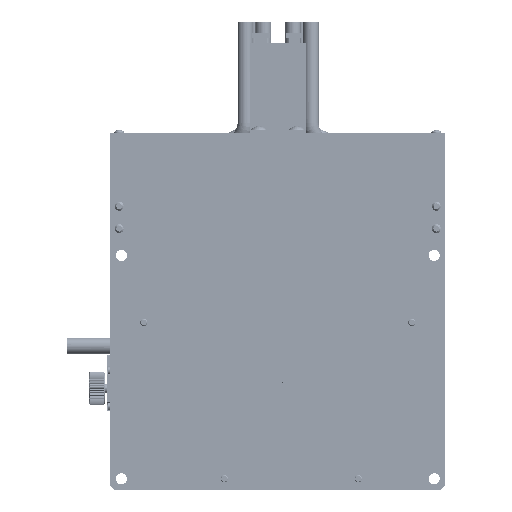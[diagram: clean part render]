
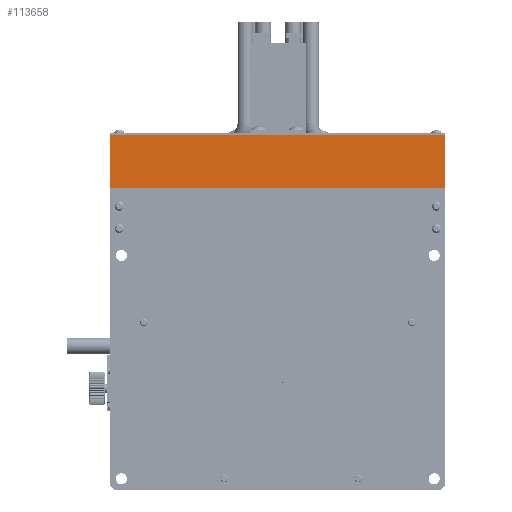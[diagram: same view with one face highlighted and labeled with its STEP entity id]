
A CAD part, front view. The second image highlights one B-rep face of the part: STEP entity #113658.
In plain terms, the highlighted planar face has unit normal (0, -1, 0) as drawn and (0, 0, -1) by its records, which use the part's own axes.
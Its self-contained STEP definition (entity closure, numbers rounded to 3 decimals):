
#1007 = ORIENTED_EDGE ( 'NONE', *, *, #238536, .T. ) ;
#2831 = ORIENTED_EDGE ( 'NONE', *, *, #101937, .F. ) ;
#22984 = ORIENTED_EDGE ( 'NONE', *, *, #203939, .F. ) ;
#30285 = DIRECTION ( 'NONE',  ( 1., 0., 0. ) ) ;
#36614 = PLANE ( 'NONE',  #79443 ) ;
#38085 = VERTEX_POINT ( 'NONE', #272575 ) ;
#46444 = CARTESIAN_POINT ( 'NONE',  ( 0., 135., 2.5 ) ) ;
#60846 = VERTEX_POINT ( 'NONE', #441285 ) ;
#68362 = VECTOR ( 'NONE', #172751, 1000. ) ;
#79443 = AXIS2_PLACEMENT_3D ( 'NONE', #521226, #440192, #117694 ) ;
#80999 = LINE ( 'NONE', #258863, #68362 ) ;
#101937 = EDGE_CURVE ( 'NONE', #60846, #38085, #255839, .T. ) ;
#113658 = ADVANCED_FACE ( 'NONE', ( #388043 ), #36614, .T. ) ;
#117694 = DIRECTION ( 'NONE',  ( 0., 1., 0. ) ) ;
#119774 = CARTESIAN_POINT ( 'NONE',  ( 0., 158.8, 2.5 ) ) ;
#120170 = CARTESIAN_POINT ( 'NONE',  ( 150., 135., 2.5 ) ) ;
#144067 = ORIENTED_EDGE ( 'NONE', *, *, #307978, .T. ) ;
#153793 = VECTOR ( 'NONE', #495760, 1000. ) ;
#172751 = DIRECTION ( 'NONE',  ( 1., 0., 0. ) ) ;
#203939 = EDGE_CURVE ( 'NONE', #454576, #60846, #80999, .T. ) ;
#238536 = EDGE_CURVE ( 'NONE', #510624, #38085, #520500, .T. ) ;
#255839 = LINE ( 'NONE', #120170, #445026 ) ;
#258863 = CARTESIAN_POINT ( 'NONE',  ( 0., 135., 2.5 ) ) ;
#268104 = VECTOR ( 'NONE', #30285, 1000. ) ;
#272575 = CARTESIAN_POINT ( 'NONE',  ( 150., 158.8, 2.5 ) ) ;
#307978 = EDGE_CURVE ( 'NONE', #454576, #510624, #342834, .T. ) ;
#310556 = CARTESIAN_POINT ( 'NONE',  ( 0., 158.8, 2.5 ) ) ;
#342834 = LINE ( 'NONE', #46444, #153793 ) ;
#388043 = FACE_OUTER_BOUND ( 'NONE', #477583, .T. ) ;
#411757 = CARTESIAN_POINT ( 'NONE',  ( 0., 135., 2.5 ) ) ;
#437391 = DIRECTION ( 'NONE',  ( 0., 1., 0. ) ) ;
#440192 = DIRECTION ( 'NONE',  ( 0., 0., -1. ) ) ;
#441285 = CARTESIAN_POINT ( 'NONE',  ( 150., 135., 2.5 ) ) ;
#445026 = VECTOR ( 'NONE', #437391, 1000. ) ;
#454576 = VERTEX_POINT ( 'NONE', #411757 ) ;
#477583 = EDGE_LOOP ( 'NONE', ( #2831, #22984, #144067, #1007 ) ) ;
#495760 = DIRECTION ( 'NONE',  ( 0., 1., 0. ) ) ;
#510624 = VERTEX_POINT ( 'NONE', #119774 ) ;
#520500 = LINE ( 'NONE', #310556, #268104 ) ;
#521226 = CARTESIAN_POINT ( 'NONE',  ( 0., 135., 2.5 ) ) ;
